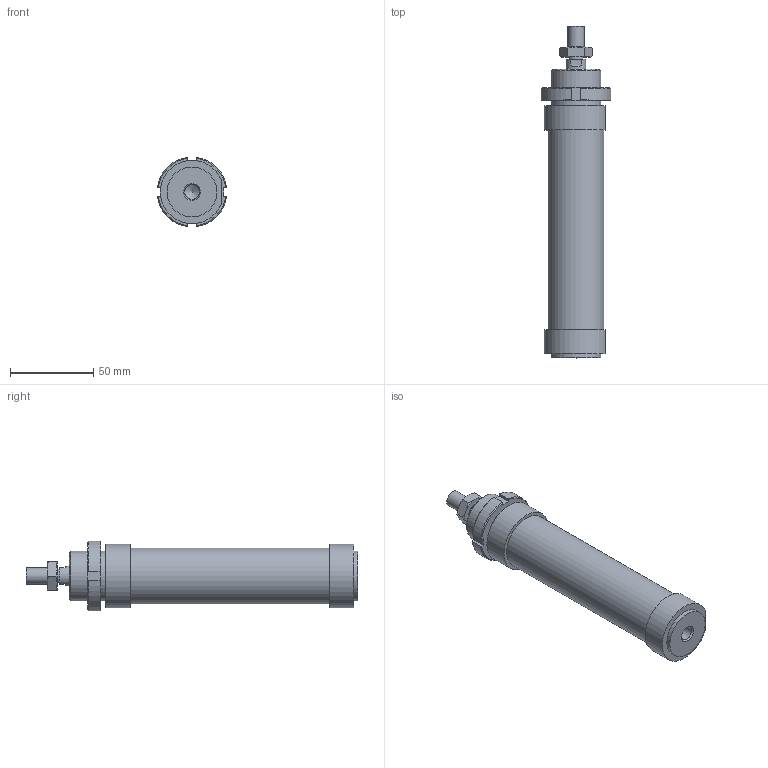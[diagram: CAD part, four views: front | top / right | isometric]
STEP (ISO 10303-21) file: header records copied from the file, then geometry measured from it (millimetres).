
FILE_DESCRIPTION((''),'2;1');
FILE_NAME('I:\Area Tecnica\Disegni\VARIE-3D\Componenti\1280\1281_##_####_#\1281_32_0080.iam.stp','2009-06-04T09:41:03',(''),(''),'Autodesk Inventor 2010','Autodesk Inventor 2010','');
FILE_SCHEMA(('AUTOMOTIVE_DESIGN { 1 0 10303 214 1 1 1 1 }'));
Length unit declared in the file: millimetre
Products named in the file (5): 1281_32_0080; C1281_32_80; S1280_32_80; 1200_32_05; 1200_32_06
Assembly tree (4 placements, depth 2):
  1281_32_0080
    C1281_32_80
    S1280_32_80
    1200_32_05
    1200_32_06
Bounding box: 41.7 x 199.5 x 41.7 mm (x, y, z)
Volume: 163214.2 mm3; surface area: 35745.1 mm2
Topology: 4 solids, 4 shells, 88 faces, 195 edges, 124 vertices
Faces by surface type: plane 39, cone 22, bspline 14, cylinder 13
Full cylindrical faces by diameter (mm): 8.8 x1, 10 x1, 12 x2, 30 x2, 33.6 x1
Entity records: 2663 total; most frequent: CARTESIAN_POINT 675, DIRECTION 362, ORIENTED_EDGE 338, EDGE_CURVE 169, AXIS2_PLACEMENT_3D 150, EDGE_LOOP 122, VERTEX_POINT 119, STYLED_ITEM 92
